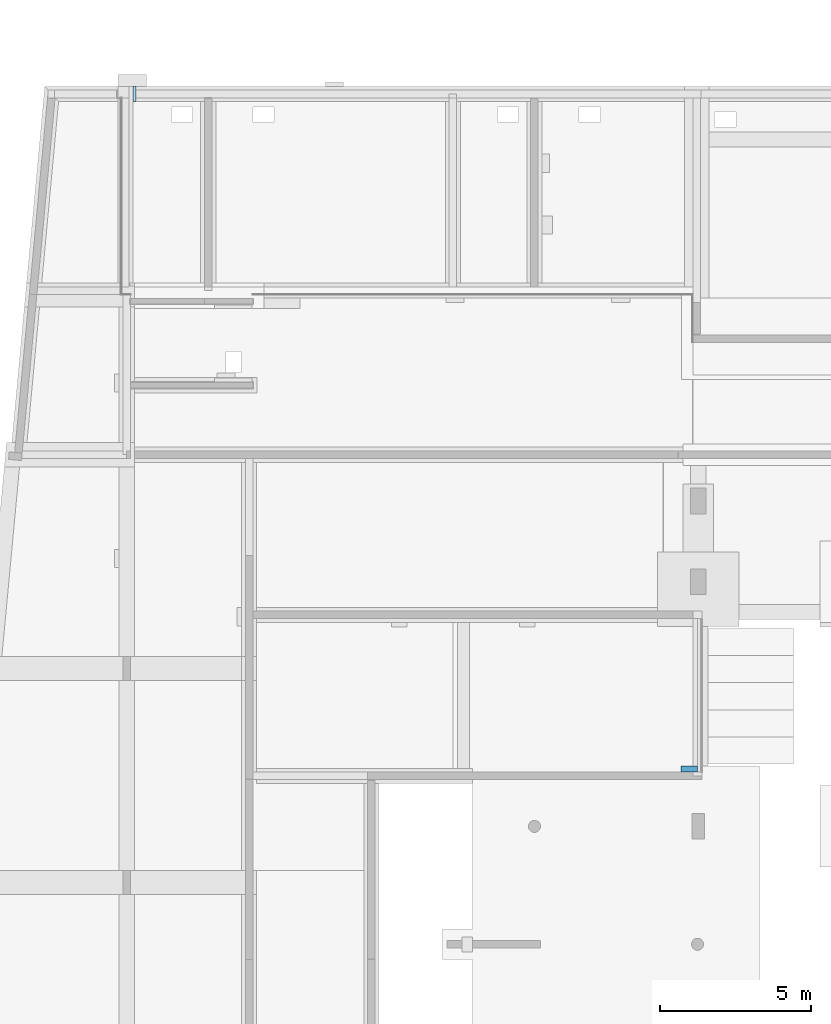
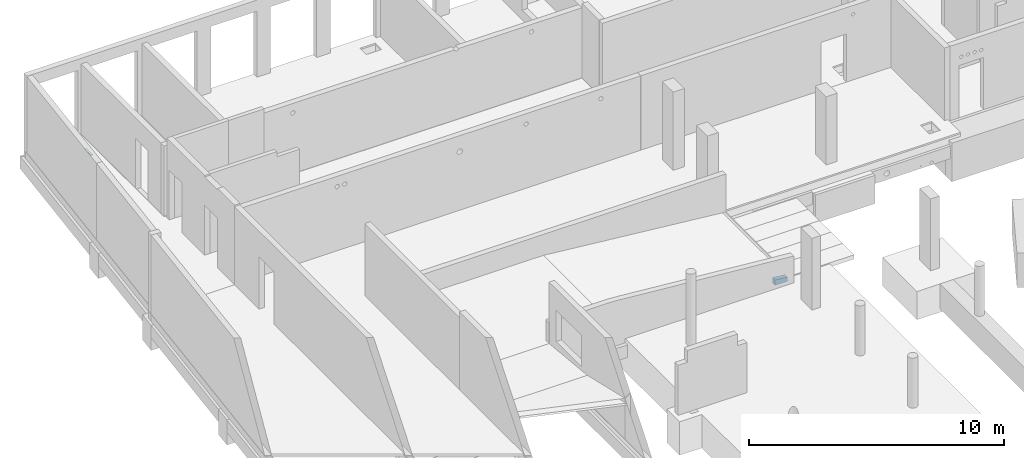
# One storey, part 36 of 60: 2 slabs.
"""IFC2X3 building model written with IfcOpenShell, lengths in millimetres."""

from ifc_helpers import new_model, entity, si_unit, converted_unit, derived_unit, direction, frame, frame_2d, origin, place, context, subcontext, project, spatial, rectangle, extrude, clip, halfspace, material, layer, layer_set, layer_usage, element, save


model = new_model("IFC2X3")

# Units and contexts
model_context = context("Model", 3, precision=0.01, world=origin(), true_north=direction((6.12303176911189e-17, 1.0)))
body_context = subcontext(model_context, "Body", "Model", "MODEL_VIEW")
ifc_project = project(units=[si_unit("LENGTHUNIT", "METRE", prefix="MILLI"), si_unit("AREAUNIT", "SQUARE_METRE"), si_unit("VOLUMEUNIT", "CUBIC_METRE"), converted_unit("PLANEANGLEUNIT", "DEGREE", entity("IfcRatioMeasure", 0.0174532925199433), si_unit("PLANEANGLEUNIT", "RADIAN"), dimensions=[0, 0, 0, 0, 0, 0, 0]), si_unit("MASSUNIT", "GRAM", prefix="KILO"), derived_unit("MASSDENSITYUNIT", [(si_unit("MASSUNIT", "GRAM", prefix="KILO"), 1), (si_unit("LENGTHUNIT", "METRE"), -3)]), si_unit("TIMEUNIT", "SECOND"), si_unit("FREQUENCYUNIT", "HERTZ"), si_unit("THERMODYNAMICTEMPERATUREUNIT", "DEGREE_CELSIUS"), derived_unit("THERMALTRANSMITTANCEUNIT", [(si_unit("MASSUNIT", "GRAM", prefix="KILO"), 1), (si_unit("THERMODYNAMICTEMPERATUREUNIT", "KELVIN"), -1), (si_unit("TIMEUNIT", "SECOND"), -3)]), derived_unit("VOLUMETRICFLOWRATEUNIT", [(si_unit("LENGTHUNIT", "METRE"), 3), (si_unit("TIMEUNIT", "SECOND"), -1)]), si_unit("ELECTRICCURRENTUNIT", "AMPERE"), si_unit("ELECTRICVOLTAGEUNIT", "VOLT"), si_unit("POWERUNIT", "WATT"), si_unit("FORCEUNIT", "NEWTON", prefix="KILO"), si_unit("ILLUMINANCEUNIT", "LUX"), si_unit("LUMINOUSFLUXUNIT", "LUMEN"), si_unit("LUMINOUSINTENSITYUNIT", "CANDELA"), derived_unit("USERDEFINED", [(si_unit("MASSUNIT", "GRAM", prefix="KILO"), -1), (si_unit("LENGTHUNIT", "METRE"), -2), (si_unit("TIMEUNIT", "SECOND"), 3), (si_unit("LUMINOUSFLUXUNIT", "LUMEN"), 1)]), derived_unit("LINEARVELOCITYUNIT", [(si_unit("LENGTHUNIT", "METRE"), 1), (si_unit("TIMEUNIT", "SECOND"), -1)]), si_unit("PRESSUREUNIT", "PASCAL"), derived_unit("USERDEFINED", [(si_unit("LENGTHUNIT", "METRE"), -2), (si_unit("MASSUNIT", "GRAM", prefix="KILO"), 1), (si_unit("TIMEUNIT", "SECOND"), -2)])], contexts=[model_context])

# Site, building, storey
site_placement = place(None, origin())
site = spatial("IfcSite", under=ifc_project, at=site_placement, Name="Default", CompositionType="ELEMENT")
building_placement = place(site_placement, origin())
building = spatial("IfcBuilding", under=site, at=building_placement, Name="niet gebruiken", CompositionType="ELEMENT")
storey_placement = place(building_placement, origin())
storey = spatial("IfcBuildingStorey", under=building, at=storey_placement, Name="00 begane grond", CompositionType="ELEMENT", Elevation=0.0)

# Slabs
ifc_material = material(Name="NLRS_f2_beton ihwg")
ifc_layer_1 = layer(ifc_material, 250.0)
ifc_layer_set_1 = layer_set([ifc_layer_1], Name="Floor:NLRS_23.21_FL_beton ihwg d=250_gen")
ifc_layer_usage_1 = layer_usage(ifc_layer_set_1, "AXIS3", "POSITIVE", 0.0)
slab_1_placement = place(storey_placement, origin())
element("IfcSlab", 1, at=slab_1_placement, inside=storey, material=ifc_layer_usage_1, Name="Floor:NLRS_23.21_FL_beton ihwg d=250_gen", ObjectType="Floor:NLRS_23.21_FL_beton ihwg d=250_gen", PredefinedType="FLOOR", context=body_context, shape_type="Clipping", body=[
    clip(clip(clip(extrude(rectangle(XDim=552.676007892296, YDim=204.999999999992, at=frame_2d((2.16715534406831e-12, 4.34852154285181e-12), x_axis=(0.0, 1.0))), frame((26725.0, 30778.5, 27.1604938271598), z_axis=(-0.098287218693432, 0.0, -0.995158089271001), x_axis=(0.0, 1.0, 0.0)), (0.0, 0.098287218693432, 0.995158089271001), 252.438652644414), halfspace(frame((21200.0, 18681.0, -200.0), z_axis=(0.0, 0.0, -1.0), x_axis=(1.0, 0.0, 0.0)), False)), halfspace(frame((27000.0, 33456.0, 0.0), z_axis=(0.098287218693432, 0.0, 0.995158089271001), x_axis=(0.995158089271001, 0.0, -0.098287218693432)), False)), halfspace(frame((27000.0, 33456.0, -251.216367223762), z_axis=(-0.098287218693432, 0.0, -0.995158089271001), x_axis=(-0.995158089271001, 0.0, 0.098287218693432)), False)),
])
ifc_layer_2 = layer(ifc_material, 10.0)
ifc_layer_set_2 = layer_set([ifc_layer_2], Name="Floor:NLRS_23.21_FL_beton ihwg d=10_gen")
ifc_layer_usage_2 = layer_usage(ifc_layer_set_2, "AXIS3", "POSITIVE", 0.0)
slab_2_placement = place(storey_placement, origin())
element("IfcSlab", 2, at=slab_2_placement, inside=storey, material=ifc_layer_usage_2, Name="Floor:NLRS_23.21_FL_beton ihwg d=10_gen", ObjectType="Floor:NLRS_23.21_FL_beton ihwg d=10_gen", PredefinedType="FLOOR", context=body_context, shape_type="SweptSolid", body=[
    extrude(rectangle(XDim=499.999999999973, YDim=100.0, at=frame_2d((0.0, 5.43565192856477e-13), x_axis=(1.0, 0.0))), frame((8355.0, 53131.0, -1092.0), z_axis=(0.0, 0.0, -1.0), x_axis=(0.0, 1.0, 0.0)), (0.0, 0.0, 1.0), 10.0),
])

save(model, "model.ifc")
